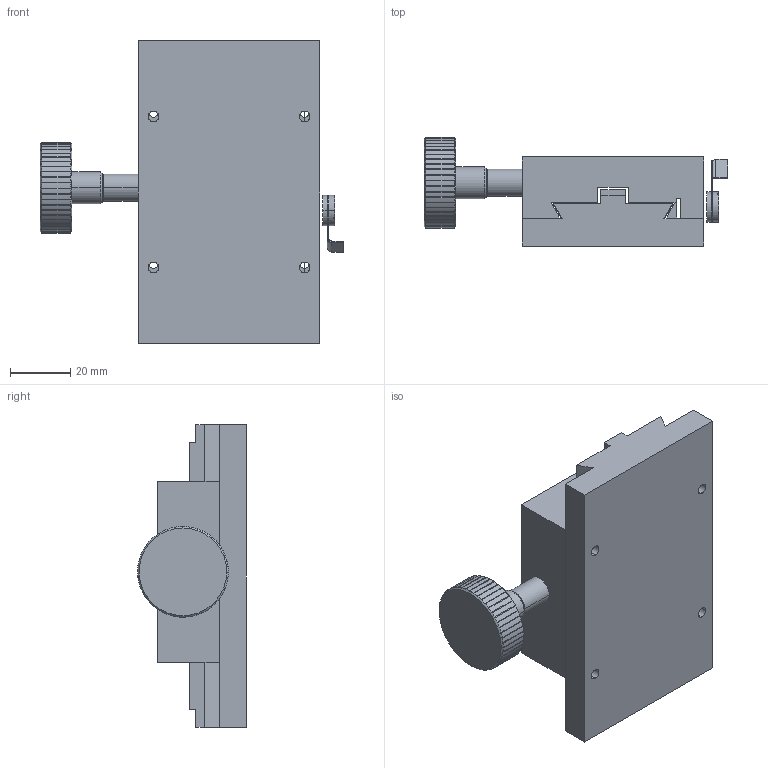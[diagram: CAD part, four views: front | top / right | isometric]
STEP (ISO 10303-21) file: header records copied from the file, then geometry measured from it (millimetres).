
FILE_DESCRIPTION (( 'STEP AP214' ), '1' );
FILE_NAME ('PT-DN60-100.STEP', '2022-08-27T07:46:20', ( '' ), ( '' ), 'SwSTEP 2.0', 'SolidWorks 2017', '' );
FILE_SCHEMA (( 'AUTOMOTIVE_DESIGN' ));
Length unit declared in the file: millimetre
Products named in the file (3): 參忒1; 賑輸; PT-DN60-100
Assembly tree (2 placements, depth 2):
  PT-DN60-100
    賑輸
    參忒1
Bounding box: 100.5 x 36 x 100 mm (x, y, z)
Surface area: 33091.6 mm2
Topology: 1 solids, 7 shells, 250 faces, 818 edges, 555 vertices
Faces by surface type: cylinder 193, plane 50, cone 6, bspline 1
Entity records: 11203 total; most frequent: CARTESIAN_POINT 4109, ORIENTED_EDGE 1494, DIRECTION 1371, EDGE_CURVE 818, VERTEX_POINT 555, AXIS2_PLACEMENT_3D 503, VECTOR 365, LINE 365
